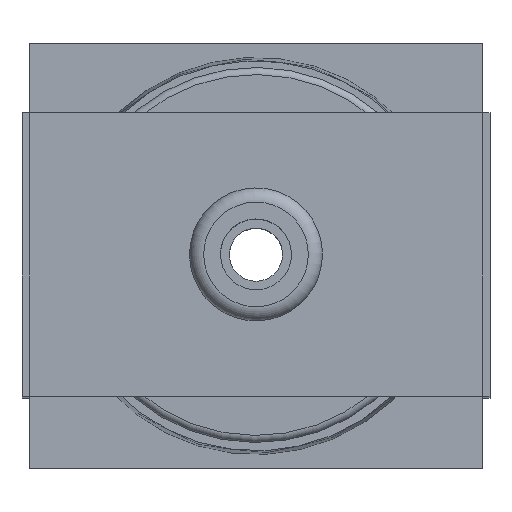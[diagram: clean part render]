
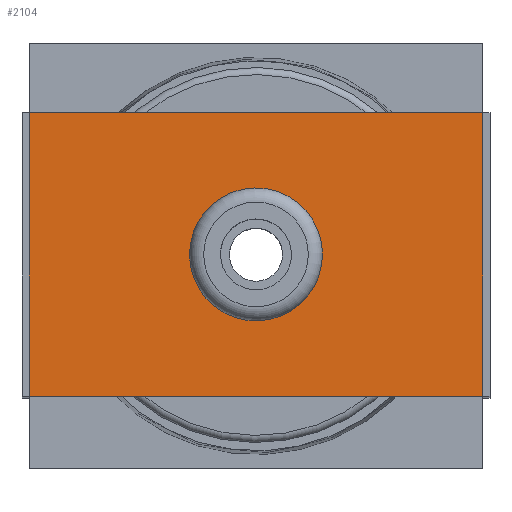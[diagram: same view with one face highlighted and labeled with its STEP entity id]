
A CAD part, top view. The second image highlights one B-rep face of the part: STEP entity #2104.
In plain terms, the highlighted planar face has unit normal (0, 0, 1).
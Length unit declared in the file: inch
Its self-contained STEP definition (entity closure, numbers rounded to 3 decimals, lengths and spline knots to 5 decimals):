
#52=FACE_BOUND('',#413,.T.);
#53=FACE_BOUND('',#414,.T.);
#199=PLANE('',#2254);
#413=EDGE_LOOP('',(#1573));
#414=EDGE_LOOP('',(#1574,#1575,#1576,#1577));
#619=LINE('',#13868,#745);
#621=LINE('',#13872,#747);
#622=LINE('',#13874,#748);
#623=LINE('',#13875,#749);
#745=VECTOR('',#2541,8.);
#747=VECTOR('',#2545,5.);
#748=VECTOR('',#2546,8.);
#749=VECTOR('',#2547,5.);
#823=CIRCLE('',#2243,0.9375);
#963=VERTEX_POINT('',#13829);
#976=VERTEX_POINT('',#13865);
#977=VERTEX_POINT('',#13867);
#978=VERTEX_POINT('',#13871);
#979=VERTEX_POINT('',#13873);
#1189=EDGE_CURVE('',#963,#963,#823,.T.);
#1207=EDGE_CURVE('',#977,#976,#619,.T.);
#1209=EDGE_CURVE('',#976,#978,#621,.T.);
#1210=EDGE_CURVE('',#979,#978,#622,.T.);
#1211=EDGE_CURVE('',#977,#979,#623,.T.);
#1573=ORIENTED_EDGE('',*,*,#1189,.T.);
#1574=ORIENTED_EDGE('',*,*,#1209,.T.);
#1575=ORIENTED_EDGE('',*,*,#1210,.F.);
#1576=ORIENTED_EDGE('',*,*,#1211,.F.);
#1577=ORIENTED_EDGE('',*,*,#1207,.T.);
#2104=ADVANCED_FACE('',(#52,#53),#199,.T.);
#2243=AXIS2_PLACEMENT_3D('',#13830,#2506,#2507);
#2254=AXIS2_PLACEMENT_3D('',#13870,#2543,#2544);
#2506=DIRECTION('center_axis',(0.,0.,-1.));
#2507=DIRECTION('ref_axis',(-1.,0.,0.));
#2541=DIRECTION('',(-1.,0.,0.));
#2543=DIRECTION('center_axis',(0.,0.,1.));
#2544=DIRECTION('ref_axis',(-1.,0.,0.));
#2545=DIRECTION('',(0.,-1.,0.));
#2546=DIRECTION('',(-1.,0.,0.));
#2547=DIRECTION('',(0.,-1.,0.));
#13829=CARTESIAN_POINT('',(-0.9375,0.,0.));
#13830=CARTESIAN_POINT('Origin',(0.,0.,
0.));
#13865=CARTESIAN_POINT('',(-4.,2.5,0.));
#13867=CARTESIAN_POINT('',(4.,2.5,0.));
#13868=CARTESIAN_POINT('',(4.,2.5,0.));
#13870=CARTESIAN_POINT('Origin',(4.,2.5,0.));
#13871=CARTESIAN_POINT('',(-4.,-2.5,0.));
#13872=CARTESIAN_POINT('',(-4.,1.25,0.));
#13873=CARTESIAN_POINT('',(4.,-2.5,0.));
#13874=CARTESIAN_POINT('',(4.,-2.5,0.));
#13875=CARTESIAN_POINT('',(4.,1.25,0.));
